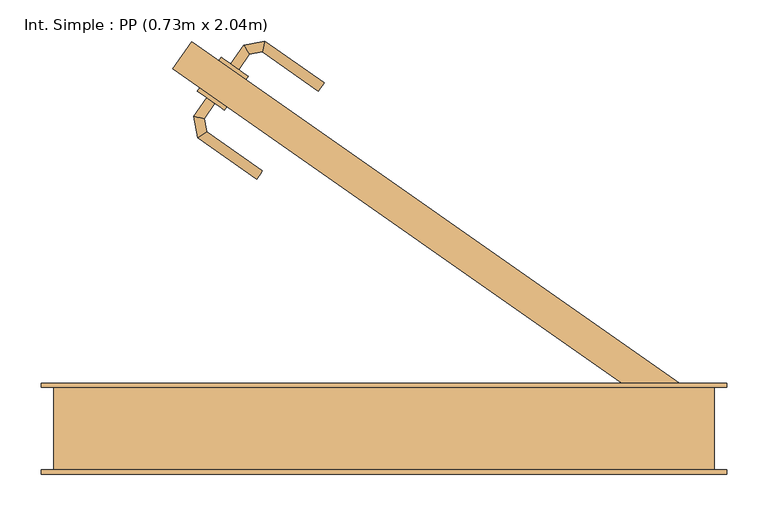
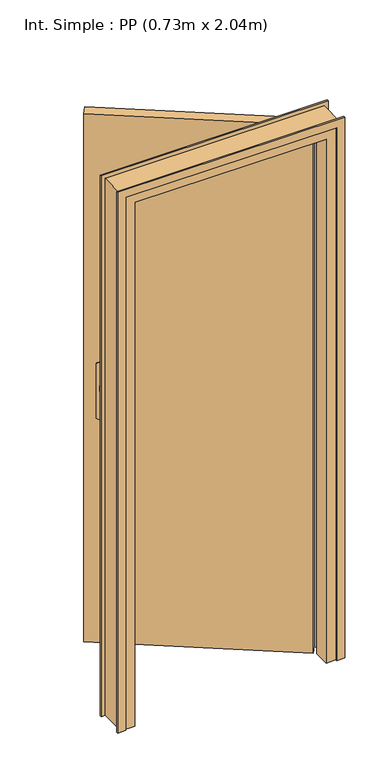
"""IFC4 building model written with IfcOpenShell, lengths in millimetres: door geometry, Int. Simple : PP (0.73m x 2.04m)."""

from ifc_helpers import new_model, si_unit, point, frame, frame_2d, origin, origin_with_axes, place, context, project, spatial, polyline, circle_curve, ellipse_curve, trimmed, segment, composite_curve, outline, extrude, faceted_brep, source, transform, mapped, element, save
from ifc_brep_helpers import plane_surface, cylinder_surface, advanced_brep


def int_simple_pp_0_73m_x_2_04m_0155da5d(model_context):
    return source(origin(), model_context, "Body", "SolidModel", [
        extrude(outline(composite_curve([segment(trimmed(circle_curve(frame_2d((0.0, 40.0)), 40.0), [point((34.6410162, 60.0))], [point((34.6410162, 20.0))], False, "CARTESIAN"), True, "CONTINUOUS"), segment(polyline([(34.6410162, 20.0), (-175.3589838, 20.0)]), True, "CONTINUOUS"), segment(trimmed(circle_curve(frame_2d((-140.7179676, 40.0)), 40.0), [point((-175.3589838, 20.0))], [point((-175.3589838, 60.0))], False, "CARTESIAN"), True, "CONTINUOUS"), segment(polyline([(-175.3589838, 60.0), (34.6410162, 60.0)]), True, "CONTINUOUS")], self_intersect=False)), frame((-186.0657879, 411.3531549, 904.6410162), z_axis=(0.5735764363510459, 0.8191520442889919, 0.0), x_axis=(0.0, 0.0, -1.0)), (0.0, 0.0, 1.0), 5.0),
        extrude(outline(composite_curve([segment(trimmed(circle_curve(frame_2d((0.0, 40.0)), 40.0), [point((-34.6410162, 20.0))], [point((-34.6410162, 60.0))], False, "CARTESIAN"), True, "CONTINUOUS"), segment(polyline([(-34.6410162, 60.0), (175.3589838, 60.0)]), True, "CONTINUOUS"), segment(trimmed(circle_curve(frame_2d((140.7179676, 40.0)), 40.0), [point((175.3589838, 60.0))], [point((175.3589838, 20.0))], False, "CARTESIAN"), True, "CONTINUOUS"), segment(polyline([(175.3589838, 20.0), (-34.6410162, 20.0)]), True, "CONTINUOUS")], self_intersect=False)), frame((-211.8767275, 374.4913129, 1045.3589838), z_axis=(0.5735764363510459, 0.8191520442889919, 0.0), x_axis=(0.0, 0.0, -1.0)), (0.0, 0.0, 1.0), 5.0),
        advanced_brep(
        [(-220.8788998, 441.8334312, 1007.0), (-220.8788998, 441.8334312, 993.0), (-211.0490752, 434.950514, 993.0), (-211.0490752, 434.950514, 1007.0), (-198.0401391, 453.5292001, 1007.0), (-205.018966, 464.483764, 1007.0), (-198.0401391, 453.5292001, 993.0), (-205.018966, 464.483764, 993.0), (-182.2357729, 456.3159363, 1007.0), (-179.4245023, 468.9967585, 1007.0), (-182.2357729, 456.3159363, 993.0), (-179.4245023, 468.9967585, 993.0), (-107.6328452, 418.7276991, 1007.0), (-114.5157624, 408.8978745, 1007.0), (-114.5157624, 408.8978745, 993.0), (-107.6328452, 418.7276991, 993.0)],
        [
            (0, 1),
            (1, 2, circle_curve(frame((-215.9639875, 438.3919726, 1013.0457722), z_axis=(-0.5735764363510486, -0.81915204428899, 0.0), x_axis=(0.81915204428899, -0.5735764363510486, 0.0)), 20.9244589)),
            (2, 3),
            (3, 0, circle_curve(frame((-215.9639875, 438.3919726, 986.9542278), z_axis=(-0.5735764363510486, -0.81915204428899, 0.0), x_axis=(0.81915204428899, -0.5735764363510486, 0.0)), 20.9244589)),
            (3, 4),
            (4, 5, ellipse_curve(frame((-201.5295526, 459.0064821, 986.9542278), z_axis=(-0.8433914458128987, -0.5372996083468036, 0.0), x_axis=(0.5372996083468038, -0.8433914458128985, 0.0)), 22.6484711, 20.9244589)),
            (5, 0),
            (2, 6),
            (6, 4),
            (1, 7),
            (7, 6, ellipse_curve(frame((-201.5295526, 459.0064821, 1013.0457722), z_axis=(-0.8433914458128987, -0.5372996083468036, 0.0), x_axis=(0.5372996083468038, -0.8433914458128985, 0.0)), 22.6484711, 20.9244589)),
            (5, 7),
            (4, 8),
            (8, 9, ellipse_curve(frame((-180.8301376, 462.6563474, 986.9542278), z_axis=(-0.976296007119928, 0.21643961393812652, 0.0), x_axis=(-0.2164396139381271, -0.976296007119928, 0.0)), 22.6484711, 20.9244589)),
            (9, 5),
            (6, 10),
            (10, 8),
            (7, 11),
            (11, 10, ellipse_curve(frame((-180.8301376, 462.6563474, 1013.0457722), z_axis=(-0.976296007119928, 0.21643961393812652, 0.0), x_axis=(-0.2164396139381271, -0.976296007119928, 0.0)), 22.6484711, 20.9244589)),
            (9, 11),
            (12, 13, circle_curve(frame((-111.0743038, 413.8127868, 986.9542278), z_axis=(0.8191520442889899, -0.5735764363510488, 0.0), x_axis=(-0.5735764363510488, -0.8191520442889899, 0.0)), 20.9244589)),
            (13, 14),
            (14, 15, circle_curve(frame((-111.0743038, 413.8127868, 1013.0457722), z_axis=(0.8191520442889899, -0.5735764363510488, 0.0), x_axis=(-0.5735764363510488, -0.8191520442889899, 0.0)), 20.9244589)),
            (15, 12),
            (8, 13),
            (12, 9),
            (10, 14),
            (11, 15),
        ],
        [
            plane_surface(frame((-223.5161962, 443.680086, 1000.0), z_axis=(-0.5735764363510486, -0.81915204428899, 0.0), x_axis=(0.0, 0.0, -1.0))),
            cylinder_surface(frame((-215.9639875, 438.3919726, 986.9542278), z_axis=(-0.5735764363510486, -0.81915204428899, 0.0), x_axis=(0.81915204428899, -0.5735764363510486, 0.0)), 20.9244589),
            plane_surface(frame((-211.0490752, 434.950514, 1007.0), z_axis=(0.81915204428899, -0.5735764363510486, 0.0), x_axis=(0.5735764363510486, 0.81915204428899, 0.0))),
            cylinder_surface(frame((-215.9639875, 438.3919726, 1013.0457722), z_axis=(-0.5735764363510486, -0.81915204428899, 0.0), x_axis=(0.81915204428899, -0.5735764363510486, 0.0)), 20.9244589),
            plane_surface(frame((-220.8788998, 441.8334312, 993.0), z_axis=(-0.81915204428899, 0.5735764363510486, 0.0), x_axis=(0.5735764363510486, 0.81915204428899, 0.0))),
            cylinder_surface(frame((-201.5295526, 459.0064821, 986.9542278), z_axis=(-0.9848077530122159, -0.1736481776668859, 0.0), x_axis=(0.1736481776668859, -0.9848077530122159, 0.0)), 20.9244589),
            plane_surface(frame((-198.0401391, 453.5292001, 1007.0), z_axis=(0.17364817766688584, -0.9848077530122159, 0.0), x_axis=(0.9848077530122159, 0.17364817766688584, 0.0))),
            cylinder_surface(frame((-201.5295526, 459.0064821, 1013.0457722), z_axis=(-0.9848077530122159, -0.1736481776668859, 0.0), x_axis=(0.1736481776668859, -0.9848077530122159, 0.0)), 20.9244589),
            plane_surface(frame((-205.018966, 464.483764, 993.0), z_axis=(-0.17364817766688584, 0.9848077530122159, 0.0), x_axis=(0.9848077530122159, 0.17364817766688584, 0.0))),
            plane_surface(frame((-111.0743038, 413.8127868, 990.7804555), z_axis=(0.81915204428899, -0.5735764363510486, 0.0), x_axis=(-0.5735764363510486, -0.81915204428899, 0.0))),
            cylinder_surface(frame((-180.8301376, 462.6563474, 986.9542278), z_axis=(-0.8191520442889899, 0.5735764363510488, 0.0), x_axis=(-0.5735764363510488, -0.8191520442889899, 0.0)), 20.9244589),
            plane_surface(frame((-182.2357729, 456.3159363, 1007.0), z_axis=(-0.5735764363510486, -0.81915204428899, 0.0), x_axis=(0.81915204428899, -0.5735764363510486, 0.0))),
            cylinder_surface(frame((-180.8301376, 462.6563474, 1013.0457722), z_axis=(-0.8191520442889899, 0.5735764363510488, 0.0), x_axis=(-0.5735764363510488, -0.8191520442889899, 0.0)), 20.9244589),
            plane_surface(frame((-179.4245023, 468.9967585, 993.0), z_axis=(0.5735764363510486, 0.81915204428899, 0.0), x_axis=(0.81915204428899, -0.5735764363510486, 0.0))),
        ],
        [
            (0, [[1, 2, 3, 4]]),
            (1, [[5, 6, 7, -4]]),
            (2, [[8, 9, -5, -3]]),
            (3, [[10, 11, -8, -2]]),
            (4, [[-7, 12, -10, -1]]),
            (5, [[13, 14, 15, -6]]),
            (6, [[16, 17, -13, -9]]),
            (7, [[18, 19, -16, -11]]),
            (8, [[-15, 20, -18, -12]]),
            (9, [[21, 22, 23, 24]]),
            (10, [[25, -21, 26, -14]]),
            (11, [[27, -22, -25, -17]]),
            (12, [[28, -23, -27, -19]]),
            (13, [[-26, -24, -28, -20]]),
        ],
    ),
        advanced_brep(
        [(-239.727897, 393.9929117, 993.0), (-249.5577216, 400.875829, 993.0), (-249.5577216, 400.875829, 1007.0), (-239.727897, 393.9929117, 1007.0), (-252.6248805, 375.5741105, 1007.0), (-252.6248805, 375.5741105, 993.0), (-265.3057027, 378.3853811, 1007.0), (-265.3057027, 378.3853811, 993.0), (-249.8043756, 359.578232, 1007.0), (-249.8043756, 359.578232, 993.0), (-260.7589394, 352.5994052, 1007.0), (-260.7589394, 352.5994052, 993.0), (-182.1747713, 312.2234733, 993.0), (-182.1747713, 312.2234733, 1007.0), (-189.0576886, 302.3936488, 1007.0), (-189.0576886, 302.3936488, 993.0)],
        [
            (0, 1, circle_curve(frame((-244.6428093, 397.4343704, 1013.0457722), z_axis=(0.5735764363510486, 0.81915204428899, 0.0), x_axis=(-0.81915204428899, 0.5735764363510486, 0.0)), 20.9244589)),
            (1, 2),
            (2, 3, circle_curve(frame((-244.6428093, 397.4343704, 986.9542278), z_axis=(0.5735764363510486, 0.81915204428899, 0.0), x_axis=(-0.81915204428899, 0.5735764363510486, 0.0)), 20.9244589)),
            (3, 0),
            (3, 4),
            (4, 5),
            (5, 0),
            (2, 6),
            (6, 4, ellipse_curve(frame((-258.9652916, 376.9797458, 986.9542278), z_axis=(0.2164396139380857, 0.9762960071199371, 0.0), x_axis=(0.9762960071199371, -0.21643961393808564, 0.0)), 22.6484711, 20.9244589)),
            (1, 7),
            (7, 6),
            (5, 7, ellipse_curve(frame((-258.9652916, 376.9797458, 1013.0457722), z_axis=(0.2164396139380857, 0.9762960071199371, 0.0), x_axis=(0.9762960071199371, -0.21643961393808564, 0.0)), 22.6484711, 20.9244589)),
            (4, 8),
            (8, 9),
            (9, 5),
            (6, 10),
            (10, 8, ellipse_curve(frame((-255.2816575, 356.0888186, 986.9542278), z_axis=(-0.5372996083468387, 0.8433914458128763, 0.0), x_axis=(0.8433914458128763, 0.5372996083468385, 0.0)), 22.6484711, 20.9244589)),
            (7, 11),
            (11, 10),
            (9, 11, ellipse_curve(frame((-255.2816575, 356.0888186, 1013.0457722), z_axis=(-0.5372996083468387, 0.8433914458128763, 0.0), x_axis=(0.8433914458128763, 0.5372996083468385, 0.0)), 22.6484711, 20.9244589)),
            (12, 13),
            (13, 14, circle_curve(frame((-185.61623, 307.3085611, 986.9542278), z_axis=(0.81915204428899, -0.5735764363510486, 0.0), x_axis=(-0.5735764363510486, -0.81915204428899, 0.0)), 20.9244589)),
            (14, 15),
            (15, 12, circle_curve(frame((-185.61623, 307.3085611, 1013.0457722), z_axis=(0.81915204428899, -0.5735764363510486, 0.0), x_axis=(-0.5735764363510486, -0.81915204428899, 0.0)), 20.9244589)),
            (8, 13),
            (12, 9),
            (10, 14),
            (11, 15),
        ],
        [
            plane_surface(frame((-252.195018, 402.7224838, 1000.0), z_axis=(0.5735764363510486, 0.81915204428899, 0.0), x_axis=(0.0, 0.0, 1.0))),
            plane_surface(frame((-239.727897, 393.9929117, 993.0), z_axis=(0.81915204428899, -0.5735764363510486, 0.0), x_axis=(-0.5735764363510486, -0.81915204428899, 0.0))),
            cylinder_surface(frame((-244.6428093, 397.4343704, 986.9542278), z_axis=(0.5735764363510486, 0.81915204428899, 0.0), x_axis=(-0.81915204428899, 0.5735764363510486, 0.0)), 20.9244589),
            plane_surface(frame((-249.5577216, 400.875829, 1007.0), z_axis=(-0.81915204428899, 0.5735764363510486, 0.0), x_axis=(-0.5735764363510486, -0.81915204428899, 0.0))),
            cylinder_surface(frame((-244.6428093, 397.4343704, 1013.0457722), z_axis=(0.5735764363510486, 0.81915204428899, 0.0), x_axis=(-0.81915204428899, 0.5735764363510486, 0.0)), 20.9244589),
            plane_surface(frame((-252.6248805, 375.5741105, 993.0), z_axis=(0.9848077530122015, 0.173648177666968, 0.0), x_axis=(0.173648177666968, -0.9848077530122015, 0.0))),
            cylinder_surface(frame((-258.9652916, 376.9797458, 986.9542278), z_axis=(-0.173648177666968, 0.9848077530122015, 0.0), x_axis=(-0.9848077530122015, -0.173648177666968, 0.0)), 20.9244589),
            plane_surface(frame((-265.3057027, 378.3853811, 1007.0), z_axis=(-0.9848077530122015, -0.17364817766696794, 0.0), x_axis=(0.17364817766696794, -0.9848077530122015, 0.0))),
            cylinder_surface(frame((-258.9652916, 376.9797458, 1013.0457722), z_axis=(-0.173648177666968, 0.9848077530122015, 0.0), x_axis=(-0.9848077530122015, -0.173648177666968, 0.0)), 20.9244589),
            plane_surface(frame((-185.61623, 307.3085611, 990.7804555), z_axis=(0.81915204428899, -0.5735764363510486, 0.0), x_axis=(-0.5735764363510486, -0.81915204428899, 0.0))),
            plane_surface(frame((-249.8043756, 359.578232, 993.0), z_axis=(0.5735764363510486, 0.81915204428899, 0.0), x_axis=(0.81915204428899, -0.5735764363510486, 0.0))),
            cylinder_surface(frame((-255.2816575, 356.0888186, 986.9542278), z_axis=(-0.81915204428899, 0.5735764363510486, 0.0), x_axis=(-0.5735764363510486, -0.81915204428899, 0.0)), 20.9244589),
            plane_surface(frame((-260.7589394, 352.5994052, 1007.0), z_axis=(-0.5735764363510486, -0.81915204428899, 0.0), x_axis=(0.81915204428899, -0.5735764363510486, 0.0))),
            cylinder_surface(frame((-255.2816575, 356.0888186, 1013.0457722), z_axis=(-0.81915204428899, 0.5735764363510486, 0.0), x_axis=(-0.5735764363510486, -0.81915204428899, 0.0)), 20.9244589),
        ],
        [
            (0, [[1, 2, 3, 4]]),
            (1, [[5, 6, 7, -4]]),
            (2, [[8, 9, -5, -3]]),
            (3, [[10, 11, -8, -2]]),
            (4, [[-7, 12, -10, -1]]),
            (5, [[13, 14, 15, -6]]),
            (6, [[16, 17, -13, -9]]),
            (7, [[18, 19, -16, -11]]),
            (8, [[-15, 20, -18, -12]]),
            (9, [[21, 22, 23, 24]]),
            (10, [[25, -21, 26, -14]]),
            (11, [[27, -22, -25, -17]]),
            (12, [[28, -23, -27, -19]]),
            (13, [[-26, -24, -28, -20]]),
        ],
    ),
        extrude(outline(polyline([(-290.9240498, 435.9447168), (-267.9809923, 468.7107985), (330.0, 50.0), (307.0569425, 17.2339182), (-290.9240498, 435.9447168)])), origin_with_axes(), (0.0, 0.0, 1.0), 2040.0),
        faceted_brep([(-435.0, 50.0, 0.0), (-400.0, 50.0, 0.0), (-400.0, 10.0, 0.0), (-385.0, 10.0, 0.0), (-385.0, -50.0, 0.0), (-435.0, -50.0, 0.0), (-435.0, -50.0, 2075.0), (-435.0, 50.0, 2075.0), (-385.0, -50.0, 2025.0), (315.0, -50.0, 2025.0), (315.0, -50.0, 0.0), (365.0, -50.0, 0.0), (365.0, -50.0, 2075.0), (-385.0, 10.0, 2025.0), (-400.0, 10.0, 2040.0), (330.0, 10.0, 2040.0), (330.0, 10.0, 0.0), (315.0, 10.0, 0.0), (315.0, 10.0, 2025.0), (-400.0, 50.0, 2040.0), (365.0, 50.0, 2075.0), (365.0, 50.0, 0.0), (330.0, 50.0, 0.0), (330.0, 50.0, 2040.0)], [[[0, 1, 2, 3, 4, 5]], [[5, 6, 7, 0]], [[4, 8, 9, 10, 11, 12, 6, 5]], [[3, 13, 8, 4]], [[2, 14, 15, 16, 17, 18, 13, 3]], [[1, 19, 14, 2]], [[0, 7, 20, 21, 22, 23, 19, 1]], [[12, 11, 21, 20]], [[21, 11, 10, 17, 16, 22]], [[18, 17, 10, 9]], [[23, 22, 16, 15]], [[6, 12, 20, 7]], [[13, 18, 9, 8]], [[19, 23, 15, 14]]]),
        extrude(outline(polyline([(0.0, -420.0), (2060.0, -420.0), (2060.0, 350.0), (0.0, 350.0), (0.0, 380.0), (2090.0, 380.0), (2090.0, -450.0), (0.0, -450.0), (0.0, -420.0)])), frame((0.0, 50.0, 0.0), z_axis=(0.0, 1.0, 0.0), x_axis=(0.0, 0.0, 1.0)), (0.0, 0.0, 1.0), 5.0),
        extrude(outline(polyline([(0.0, -420.0), (2060.0, -420.0), (2060.0, 350.0), (0.0, 350.0), (0.0, 380.0), (2090.0, 380.0), (2090.0, -450.0), (0.0, -450.0), (0.0, -420.0)])), frame((0.0, -55.0, 0.0), z_axis=(0.0, 1.0, 0.0), x_axis=(0.0, 0.0, 1.0)), (0.0, 0.0, 1.0), 5.0),
    ])


if __name__ == "__main__":
    model = new_model("IFC4")
    model_context = context("Model", 3, world=origin())
    ifc_project = project(units=[si_unit("LENGTHUNIT", "METRE", prefix="MILLI")], contexts=[model_context])
    site = spatial("IfcSite", under=ifc_project)
    building = spatial("IfcBuilding", under=site)
    placement = place(None, origin())
    int_simple_pp_0_73m_x_2_04m_shape = int_simple_pp_0_73m_x_2_04m_0155da5d(model_context)
    element("IfcDoor", 1, ObjectType="Int. Simple : PP (0.73m x 2.04m)", at=placement, inside=building, context=model_context, shape_type="MappedRepresentation", body=[
        mapped(int_simple_pp_0_73m_x_2_04m_shape, transform((0.0, 0.0, 0.0), x_axis=(1.0, 0.0, 0.0), y_axis=(0.0, 1.0, 0.0), z_axis=(0.0, 0.0, 1.0))),
    ])
    save(model, "model.ifc")
